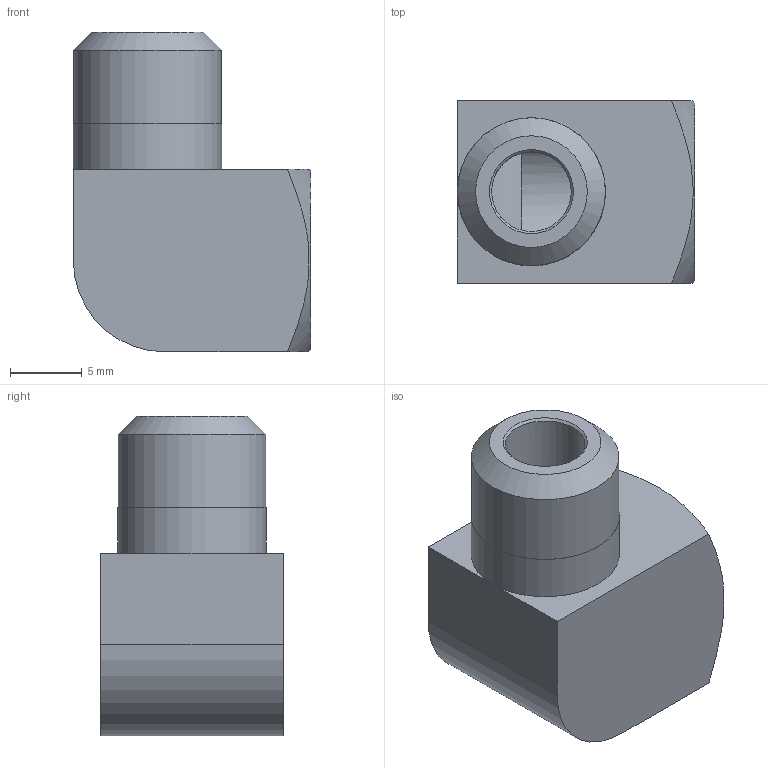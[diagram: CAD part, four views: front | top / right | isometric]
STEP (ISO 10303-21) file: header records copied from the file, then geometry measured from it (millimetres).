
FILE_DESCRIPTION(/* description */ (''),/* implementation_level */ '2;1');
FILE_NAME(/* name */ 'C:/Users/drich/Desktop/SL-18 v2.step',/* time_stamp */ '2020-02-09T11:06:58-06:00',/* author */ (''),/* organization */ (''),/* preprocessor_version */ 'ST-DEVELOPER v18',/* originating_system */ 'Autodesk Translation Framework v8.12.0.6',/* authorisation */ '');
FILE_SCHEMA (('AUTOMOTIVE_DESIGN { 1 0 10303 214 3 1 1 }'));
Length unit declared in the file: inch
Products named in the file (1): SL-18
Bounding box: 16.51 x 12.7 x 22.23 mm (x, y, z)
Volume: 2217.8 mm3; surface area: 1858 mm2
Topology: 1 solids, 1 shells, 22 faces, 55 edges, 36 vertices
Faces by surface type: plane 9, cone 7, cylinder 6
Full cylindrical faces by diameter (mm): 5.537 x1, 8.712 x1, 8.763 x1, 10.287 x1, 10.312 x1
Entity records: 760 total; most frequent: CARTESIAN_POINT 196, DIRECTION 110, ORIENTED_EDGE 108, EDGE_CURVE 54, AXIS2_PLACEMENT_3D 45, VERTEX_POINT 36, EDGE_LOOP 26, FACE_OUTER_BOUND 22
